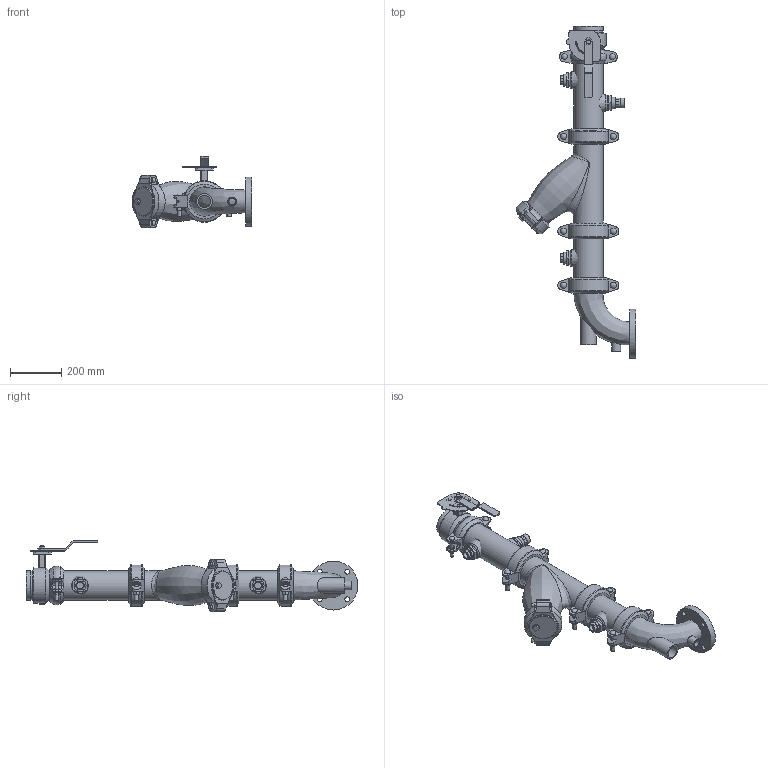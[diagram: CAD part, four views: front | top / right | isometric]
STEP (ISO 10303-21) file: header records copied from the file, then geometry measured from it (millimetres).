
FILE_DESCRIPTION(/* description */ ('VIC SVI PUMP DROP HORZ S/382 (OGSxFLG) (S/924-0.75)','CAx-IF Rec.Pracs.---Representation and Presentation of Product Manufacturing Information (PMI)---4.0---2014-10-13'),/* implementation_level */ '2;1');
FILE_NAME(/* name */ 'C:\Users\Vjadhav\AppData\Roaming\Autodesk\ApplicationPlugins\Victaulic.Temp\A562\Victaulic_IPS_Horizontal SVI_CL 150_Series 382 (OGSxFLG)_924 (0.75)_04.0x03.0 (100x80).stp',/* time_stamp */ '2022-02-28T19:57:34+05:00',/* author */ ('kkamble'),/* organization */ ('Victaulic'),/* preprocessor_version */ 'ST-DEVELOPER v17.2',/* originating_system */ 'Autodesk Inventor 2019',/* authorisation */ '');
FILE_SCHEMA (('AP242_MANAGED_MODEL_BASED_3D_ENGINEERING_MIM_LF { 1 0 10303 442 1 1 4 }'));
Length unit declared in the file: inch
Products named in the file (13): 382_924 (0.75)-04.0x03.0; PIPE-04.0; 107N-04.0; 732-04.0; 732-04.0_1; 07-04.0; 732-04.0_2; PIPE-04.2; 761-04.0; 924-04.0x0.75; 177N-04.0; 923-04.0x0.75; R100F-04.0x03.0
Assembly tree (15 placements, depth 3):
  382_924 (0.75)-04.0x03.0
    PIPE-04.0
    107N-04.0
    732-04.0
      732-04.0_1
      07-04.0
      732-04.0_2
    177N-04.0  x3
    PIPE-04.2
    761-04.0
    924-04.0x0.75
    923-04.0x0.75  x2
    R100F-04.0x03.0
Bounding box: 464.88 x 1290.64 x 276.13 mm (x, y, z)
Volume: 8052729.4 mm3; surface area: 1790986.1 mm2
Topology: 14 solids, 17 shells, 859 faces, 2231 edges, 1489 vertices
Faces by surface type: plane 483, cylinder 285, torus 28, cone 27, bspline 26, sphere 10
Full cylindrical faces by diameter (mm): 4.826 x10, 8.636 x4, 12.7 x8, 14.986 x2, 15.875 x6, 19.05 x4, 22.225 x4, 22.86 x1, 23.495 x6, 25.4 x3, 26.67 x4, 34.29 x1, 38.608 x1, 45.974 x6, 48.26 x1, 55.118 x1, 55.626 x3, 60.96 x1, 77.927 x1, 95.25 x1, 98.831 x1, 99.06 x1, 101.6 x4, 102.26 x4, 107.95 x1, 110.084 x11, 114.3 x26, 139.7 x1, 190.5 x1
Entity records: 24958 total; most frequent: CARTESIAN_POINT 8099, DIRECTION 3425, ORIENTED_EDGE 3202, EDGE_CURVE 1601, AXIS2_PLACEMENT_3D 1299, VERTEX_POINT 1075, LINE 827, VECTOR 827
